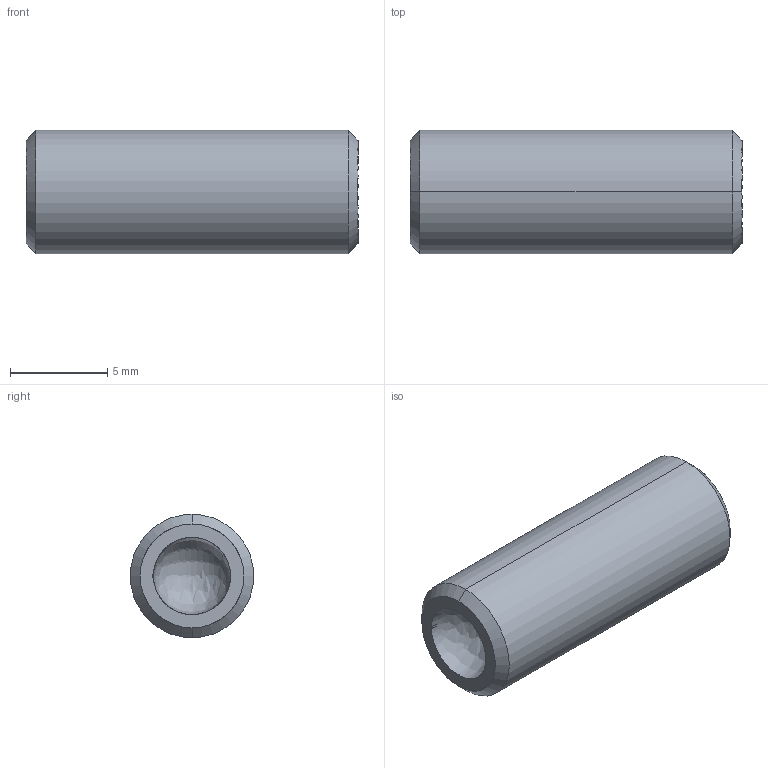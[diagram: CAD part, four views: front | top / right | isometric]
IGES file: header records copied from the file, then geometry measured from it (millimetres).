
Start section: SolidWorks IGES file using analytic representation for surfaces
Global section: file name: C:\Users\workpc\Desktop\KMA Solidworks\TS250-80 Series\TS250-80 High Vacuum\TS250-80 High Vacuum 3D Models\TS250-80-750-HV.IGS; native system: SolidWorks 2013; preprocessor: SolidWorks 2013; author: workpc; date: 130509.085555; units: inch
Bounding box: 17.07 x 6.35 x 6.35 mm (x, y, z)
Surface area: 484.4 mm2 (no closed solid volume)
Topology: 0 solids, 0 shells, 29 faces, 267 edges, 264 vertices
Faces by surface type: revolution 18, bspline 11
